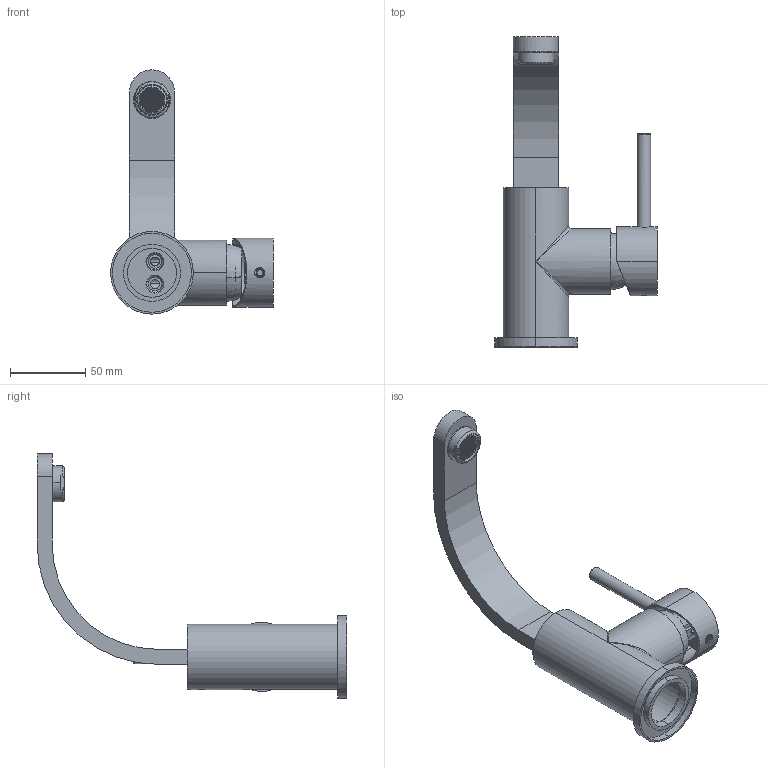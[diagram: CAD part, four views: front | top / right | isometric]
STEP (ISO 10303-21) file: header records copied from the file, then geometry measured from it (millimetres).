
FILE_DESCRIPTION (( 'STEP AP214' ), '1' );
FILE_NAME ('5330A.STEP', '2019-12-19T06:56:20', ( '微软用户' ), ( '微软中国' ), 'SwSTEP 2.0', 'SolidWorks 2014', '' );
FILE_SCHEMA (( 'AUTOMOTIVE_DESIGN' ));
Length unit declared in the file: millimetre
Products named in the file (12): 5330A; 70345奪蚾庉裔; 9103嘐隅杶; 9103奪諉挴11; 5310菁遠; M32X1.25装饰杯（塑料）; 9103忒梟(陔); 俔奪54848; 20厙郋; 24厙郲杶; M24X1两级网嘴胶圈; 錨璃1077
Assembly tree (11 placements, depth 2):
  5330A
    錨璃1077
    M24X1两级网嘴胶圈
    24厙郲杶
    20厙郋
    俔奪54848
    9103忒梟(陔)
    M32X1.25装饰杯（塑料）
    5310菁遠
    9103奪諉挴11
    9103嘐隅杶
    70345奪蚾庉裔
Bounding box: 108.25 x 206 x 162.5 mm (x, y, z)
Volume: 148754 mm3; surface area: 105219.2 mm2
Topology: 10 solids, 13 shells, 2741 faces, 10433 edges, 6914 vertices
Faces by surface type: plane 1566, cylinder 1078, cone 65, torus 24, bspline 6, sphere 2
Entity records: 145004 total; most frequent: CARTESIAN_POINT 59601, ORIENTED_EDGE 20788, DIRECTION 14268, EDGE_CURVE 10396, VERTEX_POINT 6902, LINE 4966, VECTOR 4966, AXIS2_PLACEMENT_3D 4651
